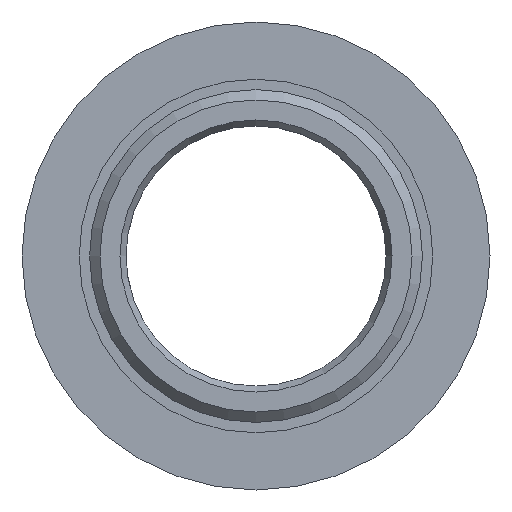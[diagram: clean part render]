
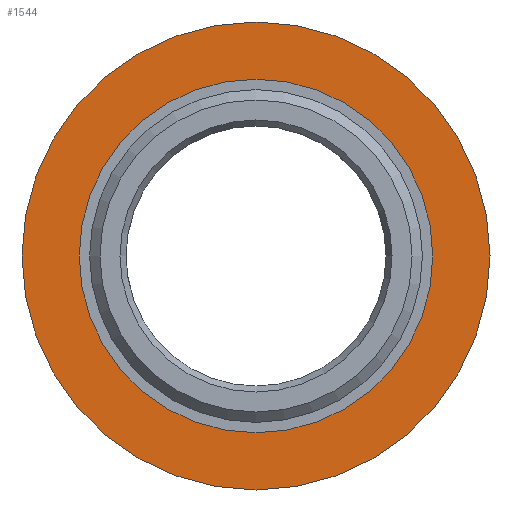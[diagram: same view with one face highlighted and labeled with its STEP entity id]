
A CAD part, left-side view. The second image highlights one B-rep face of the part: STEP entity #1544.
In plain terms, the highlighted planar face has unit normal (-1, 0, 0).
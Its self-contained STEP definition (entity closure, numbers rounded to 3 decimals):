
#37 = PLANE ( 'NONE',  #184 ) ;
#38 = DIRECTION ( 'NONE',  ( 1., 0., 0. ) ) ;
#39 = CARTESIAN_POINT ( 'NONE',  ( -0.5, 0., 0. ) ) ;
#40 = DIRECTION ( 'NONE',  ( 0., 0., -1. ) ) ;
#68 = EDGE_CURVE ( 'NONE', #735, #735, #614, .T. ) ;
#71 = EDGE_CURVE ( 'NONE', #736, #736, #615, .T. ) ;
#107 = AXIS2_PLACEMENT_3D ( 'NONE', #1255, #1247, #1253 ) ;
#117 = AXIS2_PLACEMENT_3D ( 'NONE', #1191, #1184, #1185 ) ;
#184 = AXIS2_PLACEMENT_3D ( 'NONE', #39, #38, #40 ) ;
#262 = EDGE_LOOP ( 'NONE', ( #756 ) ) ;
#413 = CARTESIAN_POINT ( 'NONE',  ( -0.5, 0., -22.5 ) ) ;
#614 = CIRCLE ( 'NONE', #107, 22.5 ) ;
#615 = CIRCLE ( 'NONE', #117, 17. ) ;
#692 = FACE_OUTER_BOUND ( 'NONE', #967, .T. ) ;
#696 = FACE_BOUND ( 'NONE', #262, .T. ) ;
#735 = VERTEX_POINT ( 'NONE', #413 ) ;
#736 = VERTEX_POINT ( 'NONE', #1043 ) ;
#756 = ORIENTED_EDGE ( 'NONE', *, *, #71, .T. ) ;
#762 = ORIENTED_EDGE ( 'NONE', *, *, #68, .F. ) ;
#967 = EDGE_LOOP ( 'NONE', ( #762 ) ) ;
#1043 = CARTESIAN_POINT ( 'NONE',  ( -0.5, 0., -17. ) ) ;
#1184 = DIRECTION ( 'NONE',  ( 1., 0., 0. ) ) ;
#1185 = DIRECTION ( 'NONE',  ( 0., 0., -1. ) ) ;
#1191 = CARTESIAN_POINT ( 'NONE',  ( -0.5, 0., 0. ) ) ;
#1247 = DIRECTION ( 'NONE',  ( 1., 0., 0. ) ) ;
#1253 = DIRECTION ( 'NONE',  ( 0., 0., -1. ) ) ;
#1255 = CARTESIAN_POINT ( 'NONE',  ( -0.5, 0., 0. ) ) ;
#1544 = ADVANCED_FACE ( 'NONE', ( #692, #696 ), #37, .F. ) ;
